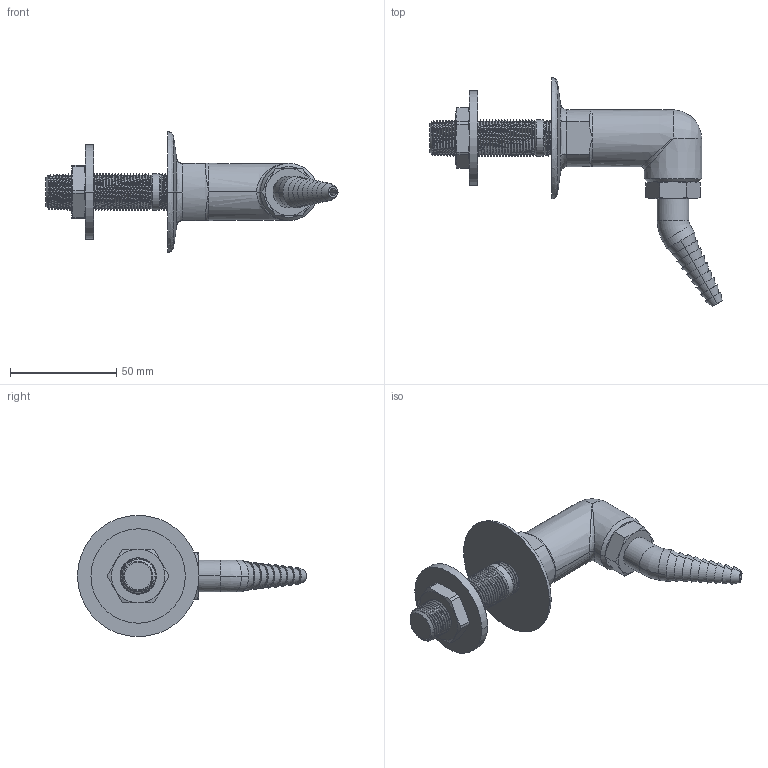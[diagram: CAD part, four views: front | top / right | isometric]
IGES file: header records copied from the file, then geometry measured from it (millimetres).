
Start section:  PTC IGES file: LRS-C02.igs
Global section: file name: LRS-C02.igs; native system: Creo Parametric by PTC Inc.; preprocessor: 2014500; author: usch_engrender; organization: Unknown; date: 20151202.105048; units: inch
Bounding box: 137.47 x 107.85 x 57.15 mm (x, y, z)
Volume: 68664.9 mm3; surface area: 25532.4 mm2
Topology: 1 solids, 3 shells, 248 faces, 619 edges, 391 vertices
Faces by surface type: revolution 153, bspline 95
